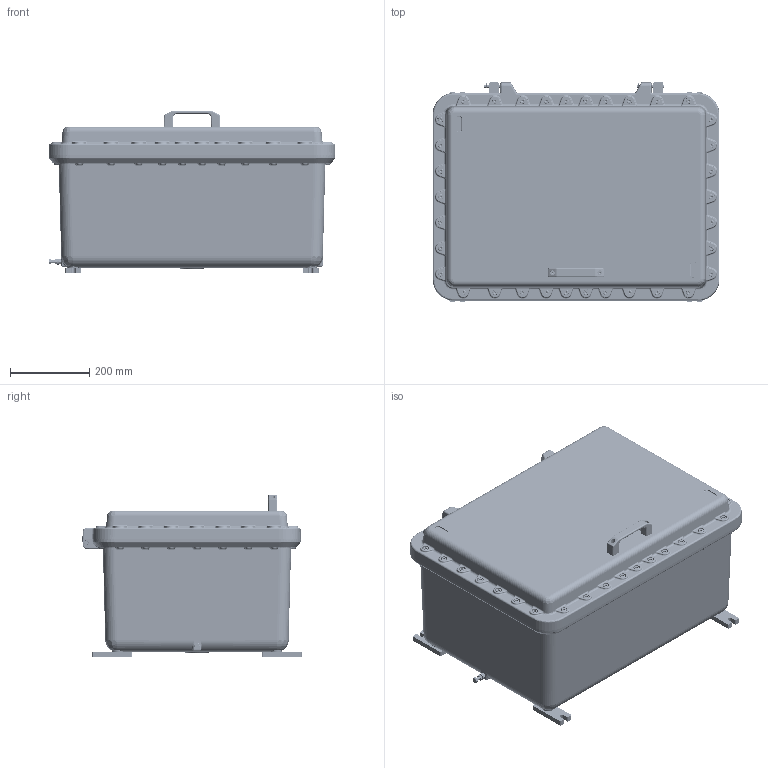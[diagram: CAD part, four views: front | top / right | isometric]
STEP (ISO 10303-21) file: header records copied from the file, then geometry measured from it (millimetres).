
FILE_DESCRIPTION(('STEP AP214'), '1');
FILE_NAME('ﾑﾌﾄ 346400 365 000 _ ﾊﾂﾌﾊ 725235 Exd (ﾅ2, ﾂ08)', '', ('UNSPECIFIED'), ('UNSPECIFIED'), 'ASCON STEP Converter 1.3', 'ASCON Math Kernel', '');
FILE_SCHEMA(('AUTOMOTIVE_DESIGN { 1 0 10303 214 3 1 1}'));
Length unit declared in the file: millimetre
Products named in the file (28): ﾑﾌﾄ 346400 365 000 ﾑﾁ; ﾑﾌﾄ 346400 365 001; ﾑﾌﾄ 346400 365 002; ﾑﾌﾄ 346400 364 004; ﾑﾌﾄ 346400 339 003; ﾑﾌﾄ 346400 365 101
Assembly tree (145 placements, depth 2):
  ﾑﾌﾄ 346400 365 000 ﾑﾁ
    ﾑﾌﾄ 346400 365 001
    ﾑﾌﾄ 346400 365 002
    (unnamed)  x36
    (unnamed)  x2
    (unnamed)
    (unnamed)  x8
    (unnamed)  x2
    ﾑﾌﾄ 346400 364 004  x2
    (unnamed)  x2
    (unnamed)
    (unnamed)  x2
    (unnamed)  x34
    (unnamed)  x34
    ﾑﾌﾄ 346400 339 003  x4
    (unnamed)
    (unnamed)
    (unnamed)
    (unnamed)
    (unnamed)
    (unnamed)
    (unnamed)
    (unnamed)
    (unnamed)
    (unnamed)
    (unnamed)
    ﾑﾌﾄ 346400 365 101
    (unnamed)  x3
Bounding box: 725.27 x 554.08 x 411 mm (x, y, z)
Volume: 33302435.8 mm3; surface area: 3503364.2 mm2
Topology: 145 solids, 146 shells, 4469 faces, 10967 edges, 6905 vertices
Faces by surface type: cylinder 1521, plane 1492, cone 583, bspline 551, torus 320, offset 2
Full cylindrical faces by diameter (mm): 3 x2, 4.134 x8, 4.2 x12, 5 x11, 5.5 x16, 6 x2, 6.3 x2, 6.4 x3, 6.647 x37, 7 x4, 8 x35, 8.376 x4, 8.5 x2, 9 x72, 9.2 x7, 10 x12, 10.5 x4, 11 x7, 12 x4, 13 x34, 16 x36, 17 x2, 17.5 x34, 18 x4, 20 x4, 58 x1
Entity records: 203297 total; most frequent: CARTESIAN_POINT 92102, ORIENTED_EDGE 16734, DIRECTION 16190, EDGE_CURVE 8367, AXIS2_PLACEMENT_3D 6376, VERTEX_POINT 5304, EDGE_LOOP 3947, FACE_BOUND 3594
